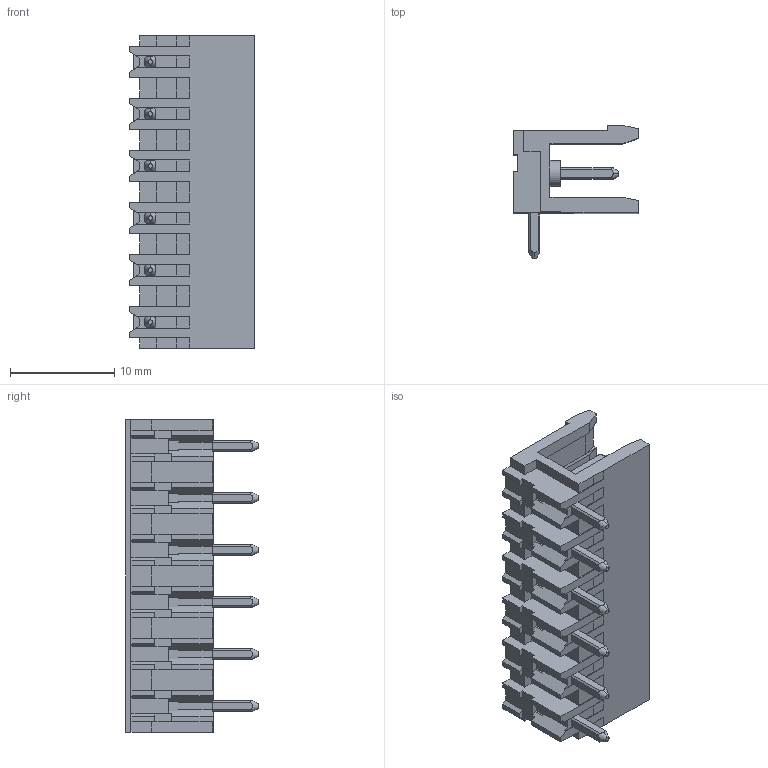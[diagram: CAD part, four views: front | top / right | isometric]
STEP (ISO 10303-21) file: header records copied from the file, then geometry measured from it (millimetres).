
FILE_DESCRIPTION (( 'STEP AP203' ), '1' );
FILE_NAME ('120-M-111-06.STEP', '2019-01-05T19:53:37', ( '' ), ( '' ), 'SwSTEP 2.0', 'SolidWorks 2016', '' );
FILE_SCHEMA (( 'CONFIG_CONTROL_DESIGN' ));
Length unit declared in the file: millimetre
Products named in the file (1): 120-M-111-06
Bounding box: 12 x 12.72 x 30 mm (x, y, z)
Volume: 1147.2 mm3; surface area: 2431.3 mm2
Topology: 1 solids, 7 shells, 565 faces, 1533 edges, 994 vertices
Faces by surface type: plane 517, cone 30, cylinder 18
Entity records: 17822 total; most frequent: CARTESIAN_POINT 3729, ORIENTED_EDGE 3066, DIRECTION 2599, EDGE_CURVE 1533, VECTOR 1335, LINE 1335, VERTEX_POINT 994, AXIS2_PLACEMENT_3D 632
